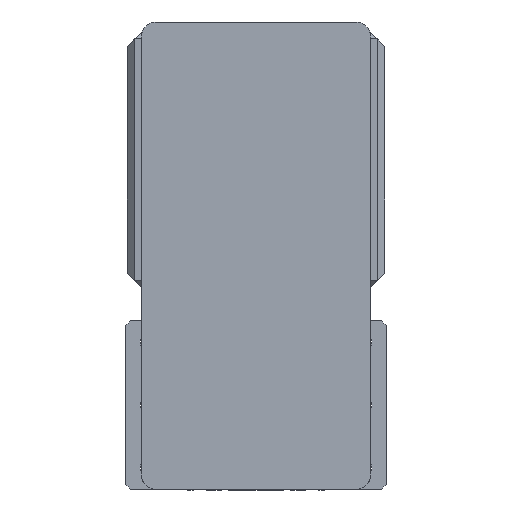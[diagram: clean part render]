
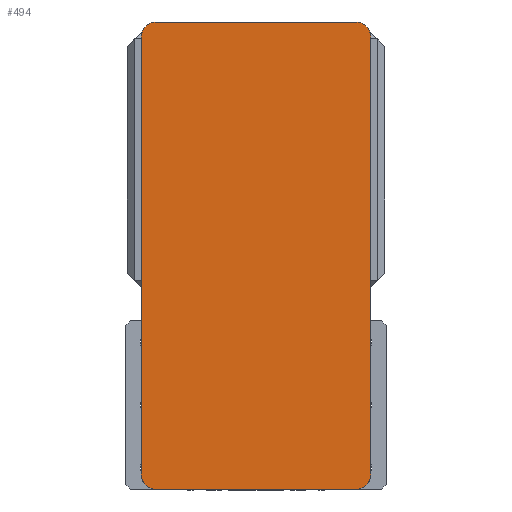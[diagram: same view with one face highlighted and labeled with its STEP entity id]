
A CAD part, left-side view. The second image highlights one B-rep face of the part: STEP entity #494.
In plain terms, the highlighted planar face has unit normal (-1, 0, 0) as drawn and (0, 0, 1) by its records, which use the part's own axes.
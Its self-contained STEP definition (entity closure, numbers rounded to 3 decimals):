
#295 = DIRECTION ( 'NONE',  ( 0., 0., 1. ) ) ;
#308 = VECTOR ( 'NONE', #8127, 1000. ) ;
#355 = VECTOR ( 'NONE', #4839, 1000. ) ;
#494 = ADVANCED_FACE ( 'NONE', ( #7690 ), #7516, .T. ) ;
#553 = AXIS2_PLACEMENT_3D ( 'NONE', #8460, #8314, #10776 ) ;
#625 = LINE ( 'NONE', #1835, #355 ) ;
#846 = DIRECTION ( 'NONE',  ( 0., 0., 1. ) ) ;
#968 = DIRECTION ( 'NONE',  ( 0., 0., 1. ) ) ;
#992 = VERTEX_POINT ( 'NONE', #10322 ) ;
#1272 = EDGE_CURVE ( 'NONE', #3025, #5021, #625, .T. ) ;
#1365 = VERTEX_POINT ( 'NONE', #7206 ) ;
#1436 = CIRCLE ( 'NONE', #8776, 10. ) ;
#1453 = CARTESIAN_POINT ( 'NONE',  ( -75., -152.5, 105. ) ) ;
#1835 = CARTESIAN_POINT ( 'NONE',  ( -75., 152.5, 105. ) ) ;
#1848 = AXIS2_PLACEMENT_3D ( 'NONE', #5290, #295, #6148 ) ;
#1975 = DIRECTION ( 'NONE',  ( 0., 0., 1. ) ) ;
#2131 = ORIENTED_EDGE ( 'NONE', *, *, #5191, .T. ) ;
#2168 = VERTEX_POINT ( 'NONE', #5932 ) ;
#2290 = ORIENTED_EDGE ( 'NONE', *, *, #4464, .T. ) ;
#2899 = ORIENTED_EDGE ( 'NONE', *, *, #10624, .T. ) ;
#2901 = CARTESIAN_POINT ( 'NONE',  ( -75., -142.5, 105. ) ) ;
#3025 = VERTEX_POINT ( 'NONE', #5298 ) ;
#3422 = CIRCLE ( 'NONE', #9263, 10. ) ;
#3961 = VERTEX_POINT ( 'NONE', #5356 ) ;
#4182 = ORIENTED_EDGE ( 'NONE', *, *, #1272, .T. ) ;
#4464 = EDGE_CURVE ( 'NONE', #1365, #7697, #7633, .T. ) ;
#4684 = DIRECTION ( 'NONE',  ( -1., 0., 0. ) ) ;
#4839 = DIRECTION ( 'NONE',  ( 0., -1., 0. ) ) ;
#5021 = VERTEX_POINT ( 'NONE', #2901 ) ;
#5089 = ORIENTED_EDGE ( 'NONE', *, *, #8555, .T. ) ;
#5191 = EDGE_CURVE ( 'NONE', #992, #8166, #6974, .T. ) ;
#5290 = CARTESIAN_POINT ( 'NONE',  ( -65., -142.5, 105. ) ) ;
#5298 = CARTESIAN_POINT ( 'NONE',  ( -75., 142.5, 105. ) ) ;
#5356 = CARTESIAN_POINT ( 'NONE',  ( -65., 152.5, 105. ) ) ;
#5568 = DIRECTION ( 'NONE',  ( 0., 1., 0. ) ) ;
#5574 = EDGE_CURVE ( 'NONE', #2168, #3961, #9430, .T. ) ;
#5676 = EDGE_LOOP ( 'NONE', ( #2131, #5089, #2290, #5864, #6733, #2899, #4182, #6231 ) ) ;
#5678 = VECTOR ( 'NONE', #5568, 1000. ) ;
#5855 = CARTESIAN_POINT ( 'NONE',  ( -65., 142.5, 105. ) ) ;
#5864 = ORIENTED_EDGE ( 'NONE', *, *, #9878, .T. ) ;
#5932 = CARTESIAN_POINT ( 'NONE',  ( 65., 152.5, 105. ) ) ;
#5974 = CARTESIAN_POINT ( 'NONE',  ( 65., 142.5, 105. ) ) ;
#6051 = EDGE_CURVE ( 'NONE', #5021, #992, #9180, .T. ) ;
#6148 = DIRECTION ( 'NONE',  ( 1., 0., 0. ) ) ;
#6231 = ORIENTED_EDGE ( 'NONE', *, *, #6051, .T. ) ;
#6259 = AXIS2_PLACEMENT_3D ( 'NONE', #5855, #846, #6697 ) ;
#6697 = DIRECTION ( 'NONE',  ( 1., 0., 0. ) ) ;
#6733 = ORIENTED_EDGE ( 'NONE', *, *, #5574, .T. ) ;
#6784 = CIRCLE ( 'NONE', #6259, 10. ) ;
#6817 = DIRECTION ( 'NONE',  ( 1., 0., 0. ) ) ;
#6974 = LINE ( 'NONE', #1453, #308 ) ;
#6982 = CARTESIAN_POINT ( 'NONE',  ( 65., -142.5, 105. ) ) ;
#7206 = CARTESIAN_POINT ( 'NONE',  ( 75., -142.5, 105. ) ) ;
#7286 = CARTESIAN_POINT ( 'NONE',  ( 75., 142.5, 105. ) ) ;
#7491 = VECTOR ( 'NONE', #4684, 1000. ) ;
#7516 = PLANE ( 'NONE',  #553 ) ;
#7633 = LINE ( 'NONE', #9714, #5678 ) ;
#7690 = FACE_OUTER_BOUND ( 'NONE', #5676, .T. ) ;
#7697 = VERTEX_POINT ( 'NONE', #7286 ) ;
#7812 = DIRECTION ( 'NONE',  ( 1., 0., 0. ) ) ;
#8127 = DIRECTION ( 'NONE',  ( 1., 0., 0. ) ) ;
#8166 = VERTEX_POINT ( 'NONE', #9635 ) ;
#8314 = DIRECTION ( 'NONE',  ( 0., 0., 1. ) ) ;
#8460 = CARTESIAN_POINT ( 'NONE',  ( 0., 0., 105. ) ) ;
#8555 = EDGE_CURVE ( 'NONE', #8166, #1365, #3422, .T. ) ;
#8776 = AXIS2_PLACEMENT_3D ( 'NONE', #5974, #968, #6817 ) ;
#9180 = CIRCLE ( 'NONE', #1848, 10. ) ;
#9263 = AXIS2_PLACEMENT_3D ( 'NONE', #6982, #1975, #7812 ) ;
#9430 = LINE ( 'NONE', #10496, #7491 ) ;
#9635 = CARTESIAN_POINT ( 'NONE',  ( 65., -152.5, 105. ) ) ;
#9714 = CARTESIAN_POINT ( 'NONE',  ( 75., 152.5, 105. ) ) ;
#9878 = EDGE_CURVE ( 'NONE', #7697, #2168, #1436, .T. ) ;
#10322 = CARTESIAN_POINT ( 'NONE',  ( -65., -152.5, 105. ) ) ;
#10496 = CARTESIAN_POINT ( 'NONE',  ( -75., 152.5, 105. ) ) ;
#10624 = EDGE_CURVE ( 'NONE', #3961, #3025, #6784, .T. ) ;
#10776 = DIRECTION ( 'NONE',  ( 1., 0., 0. ) ) ;
